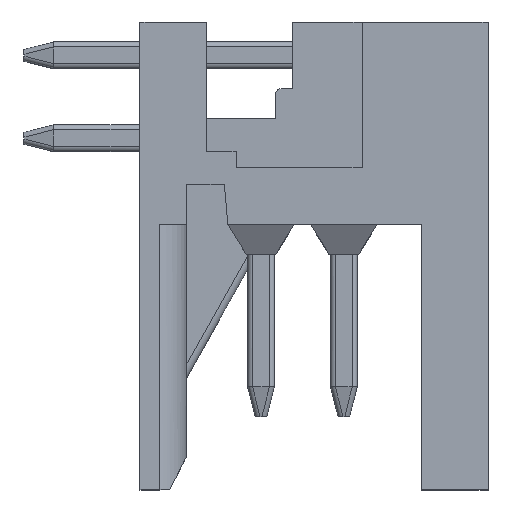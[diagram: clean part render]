
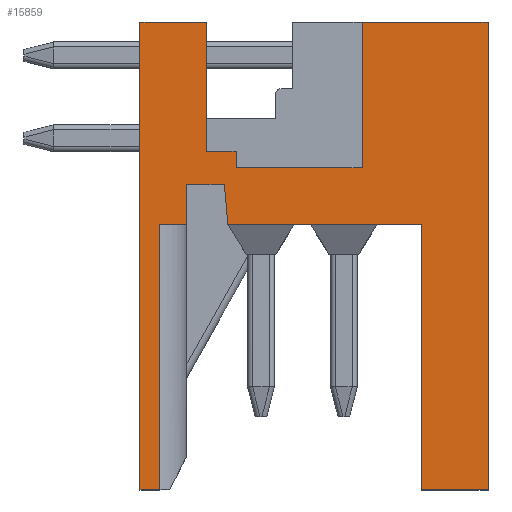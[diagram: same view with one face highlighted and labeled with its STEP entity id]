
A CAD part, top view. The second image highlights one B-rep face of the part: STEP entity #15859.
In plain terms, the highlighted planar face has unit normal (0, 0, 1).
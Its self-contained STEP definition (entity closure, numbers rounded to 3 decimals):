
#1339=DIRECTION('',(1.,0.,0.));
#1340=VECTOR('',#1339,3.8);
#1341=CARTESIAN_POINT('',(1.8,17.1,0.));
#1342=LINE('',#1341,#1340);
#1681=DIRECTION('',(-1.,0.,0.));
#1682=VECTOR('',#1681,0.6);
#1683=CARTESIAN_POINT('',(-4.3,3.,0.));
#1684=LINE('',#1683,#1682);
#2049=DIRECTION('',(1.,0.,0.));
#2050=VECTOR('',#2049,5.85);
#2051=CARTESIAN_POINT('',(-2.25,11.,0.));
#2052=LINE('',#2051,#2050);
#2053=DIRECTION('',(0.087,-0.996,0.));
#2054=VECTOR('',#2053,1.205);
#2055=CARTESIAN_POINT('',(-2.355,12.2,0.));
#2056=LINE('',#2055,#2054);
#2057=DIRECTION('',(1.,0.,0.));
#2058=VECTOR('',#2057,1.145);
#2059=CARTESIAN_POINT('',(-3.5,12.2,0.));
#2060=LINE('',#2059,#2058);
#2061=DIRECTION('',(0.,1.,0.));
#2062=VECTOR('',#2061,1.2);
#2063=CARTESIAN_POINT('',(-3.5,11.,0.));
#2064=LINE('',#2063,#2062);
#2065=DIRECTION('',(1.,0.,0.));
#2066=VECTOR('',#2065,0.8);
#2067=CARTESIAN_POINT('',(-4.3,11.,0.));
#2068=LINE('',#2067,#2066);
#2069=DIRECTION('',(0.,1.,0.));
#2070=VECTOR('',#2069,8.);
#2071=CARTESIAN_POINT('',(-4.3,3.,0.));
#2072=LINE('',#2071,#2070);
#2073=DIRECTION('',(0.,-1.,0.));
#2074=VECTOR('',#2073,14.1);
#2075=CARTESIAN_POINT('',(-4.9,17.1,0.));
#2076=LINE('',#2075,#2074);
#4102=DIRECTION('',(0.,1.,0.));
#4103=VECTOR('',#4102,4.4);
#4104=CARTESIAN_POINT('',(1.8,12.7,0.));
#4105=LINE('',#4104,#4103);
#4110=DIRECTION('',(1.,0.,0.));
#4111=VECTOR('',#4110,3.8);
#4112=CARTESIAN_POINT('',(-2.,12.7,0.));
#4113=LINE('',#4112,#4111);
#4118=DIRECTION('',(0.,-1.,0.));
#4119=VECTOR('',#4118,0.5);
#4120=CARTESIAN_POINT('',(-2.,13.2,0.));
#4121=LINE('',#4120,#4119);
#4126=DIRECTION('',(1.,0.,0.));
#4127=VECTOR('',#4126,0.9);
#4128=CARTESIAN_POINT('',(-2.9,13.2,0.));
#4129=LINE('',#4128,#4127);
#4134=DIRECTION('',(0.,-1.,0.));
#4135=VECTOR('',#4134,3.9);
#4136=CARTESIAN_POINT('',(-2.9,17.1,0.));
#4137=LINE('',#4136,#4135);
#4142=DIRECTION('',(1.,0.,0.));
#4143=VECTOR('',#4142,2.);
#4144=CARTESIAN_POINT('',(-4.9,17.1,0.));
#4145=LINE('',#4144,#4143);
#6665=DIRECTION('',(0.,-1.,0.));
#6666=VECTOR('',#6665,14.1);
#6667=CARTESIAN_POINT('',(5.6,17.1,0.));
#6668=LINE('',#6667,#6666);
#6773=DIRECTION('',(-1.,0.,0.));
#6774=VECTOR('',#6773,2.);
#6775=CARTESIAN_POINT('',(5.6,3.,0.));
#6776=LINE('',#6775,#6774);
#6798=DIRECTION('',(0.,1.,0.));
#6799=VECTOR('',#6798,8.);
#6800=CARTESIAN_POINT('',(3.6,3.,0.));
#6801=LINE('',#6800,#6799);
#11038=CARTESIAN_POINT('',(-4.9,17.1,0.));
#11039=VERTEX_POINT('',#11038);
#11040=CARTESIAN_POINT('',(-4.9,3.,0.));
#11041=VERTEX_POINT('',#11040);
#11097=CARTESIAN_POINT('',(-2.25,11.,0.));
#11099=VERTEX_POINT('',#11097);
#11100=CARTESIAN_POINT('',(3.6,11.,0.));
#11101=VERTEX_POINT('',#11100);
#11199=CARTESIAN_POINT('',(-2.355,12.2,0.));
#11201=VERTEX_POINT('',#11199);
#11203=CARTESIAN_POINT('',(-3.5,12.2,0.));
#11205=VERTEX_POINT('',#11203);
#11207=CARTESIAN_POINT('',(-3.5,11.,0.));
#11209=VERTEX_POINT('',#11207);
#11213=CARTESIAN_POINT('',(-4.3,11.,0.));
#11215=VERTEX_POINT('',#11213);
#11216=CARTESIAN_POINT('',(-4.3,3.,0.));
#11217=VERTEX_POINT('',#11216);
#11220=CARTESIAN_POINT('',(-2.9,17.1,0.));
#11221=VERTEX_POINT('',#11220);
#11222=CARTESIAN_POINT('',(-2.9,13.2,0.));
#11223=VERTEX_POINT('',#11222);
#11224=CARTESIAN_POINT('',(-2.,13.2,0.));
#11225=VERTEX_POINT('',#11224);
#11226=CARTESIAN_POINT('',(-2.,12.7,0.));
#11227=VERTEX_POINT('',#11226);
#11228=CARTESIAN_POINT('',(1.8,12.7,0.));
#11229=VERTEX_POINT('',#11228);
#11230=CARTESIAN_POINT('',(1.8,17.1,0.));
#11231=VERTEX_POINT('',#11230);
#11232=CARTESIAN_POINT('',(5.6,17.1,0.));
#11233=VERTEX_POINT('',#11232);
#11234=CARTESIAN_POINT('',(5.6,3.,0.));
#11235=VERTEX_POINT('',#11234);
#11236=CARTESIAN_POINT('',(3.6,3.,0.));
#11237=VERTEX_POINT('',#11236);
#15820=CARTESIAN_POINT('',(-7.669,0.,0.));
#15821=DIRECTION('',(0.,0.,-1.));
#15822=DIRECTION('',(1.,0.,0.));
#15823=AXIS2_PLACEMENT_3D('',#15820,#15821,#15822);
#15824=PLANE('',#15823);
#15825=ORIENTED_EDGE('',*,*,#14313,.F.);
#15827=ORIENTED_EDGE('',*,*,#15826,.F.);
#15829=ORIENTED_EDGE('',*,*,#15828,.F.);
#15831=ORIENTED_EDGE('',*,*,#15830,.F.);
#15833=ORIENTED_EDGE('',*,*,#15832,.F.);
#15834=ORIENTED_EDGE('',*,*,#15812,.F.);
#15835=ORIENTED_EDGE('',*,*,#15515,.T.);
#15837=ORIENTED_EDGE('',*,*,#15836,.F.);
#15839=ORIENTED_EDGE('',*,*,#15838,.T.);
#15841=ORIENTED_EDGE('',*,*,#15840,.T.);
#15843=ORIENTED_EDGE('',*,*,#15842,.T.);
#15845=ORIENTED_EDGE('',*,*,#15844,.T.);
#15847=ORIENTED_EDGE('',*,*,#15846,.T.);
#15849=ORIENTED_EDGE('',*,*,#15848,.T.);
#15850=ORIENTED_EDGE('',*,*,#14937,.T.);
#15852=ORIENTED_EDGE('',*,*,#15851,.T.);
#15854=ORIENTED_EDGE('',*,*,#15853,.T.);
#15856=ORIENTED_EDGE('',*,*,#15855,.T.);
#15857=EDGE_LOOP('',(#15825,#15827,#15829,#15831,#15833,#15834,#15835,#15837,
#15839,#15841,#15843,#15845,#15847,#15849,#15850,#15852,#15854,#15856));
#15858=FACE_OUTER_BOUND('',#15857,.F.);
#15859=ADVANCED_FACE('',(#15858),#15824,.F.);
#14313=EDGE_CURVE('',#11099,#11101,#2052,.T.);
#14937=EDGE_CURVE('',#11231,#11233,#1342,.T.);
#15515=EDGE_CURVE('',#11217,#11041,#1684,.T.);
#15812=EDGE_CURVE('',#11217,#11215,#2072,.T.);
#15826=EDGE_CURVE('',#11201,#11099,#2056,.T.);
#15828=EDGE_CURVE('',#11205,#11201,#2060,.T.);
#15830=EDGE_CURVE('',#11209,#11205,#2064,.T.);
#15832=EDGE_CURVE('',#11215,#11209,#2068,.T.);
#15836=EDGE_CURVE('',#11039,#11041,#2076,.T.);
#15838=EDGE_CURVE('',#11039,#11221,#4145,.T.);
#15840=EDGE_CURVE('',#11221,#11223,#4137,.T.);
#15842=EDGE_CURVE('',#11223,#11225,#4129,.T.);
#15844=EDGE_CURVE('',#11225,#11227,#4121,.T.);
#15846=EDGE_CURVE('',#11227,#11229,#4113,.T.);
#15848=EDGE_CURVE('',#11229,#11231,#4105,.T.);
#15851=EDGE_CURVE('',#11233,#11235,#6668,.T.);
#15853=EDGE_CURVE('',#11235,#11237,#6776,.T.);
#15855=EDGE_CURVE('',#11237,#11101,#6801,.T.);
